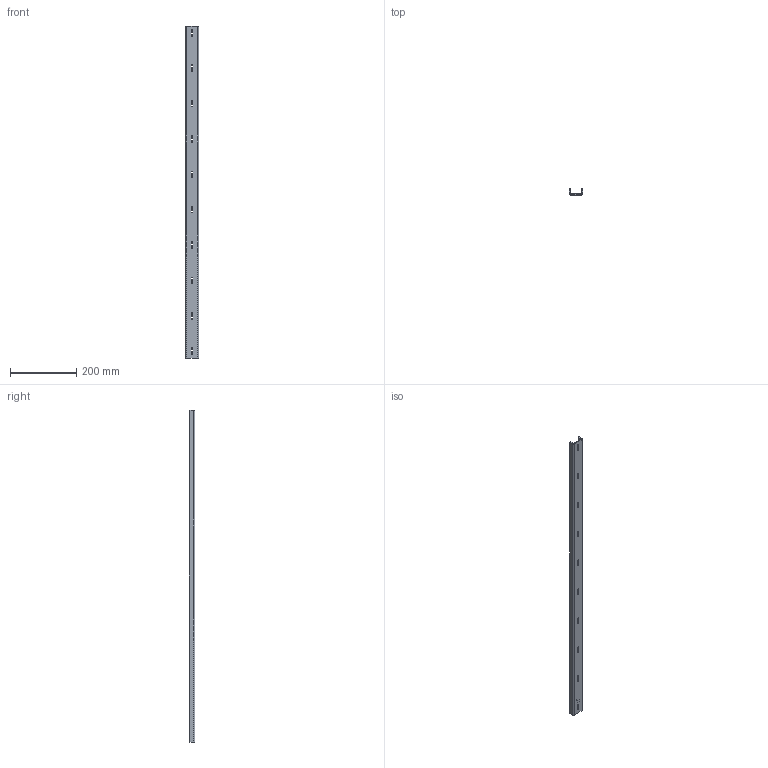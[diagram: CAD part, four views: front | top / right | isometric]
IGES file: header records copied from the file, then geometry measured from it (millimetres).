
Start section: SolidWorks IGES file using analytic representation for surfaces
Bounding box: 40 x 17 x 1000 mm (x, y, z)
Surface area: 138512.5 mm2 (no closed solid volume)
Topology: 0 solids, 0 shells, 110 faces, 1454 edges, 1454 vertices
Faces by surface type: bspline 76, revolution 34
